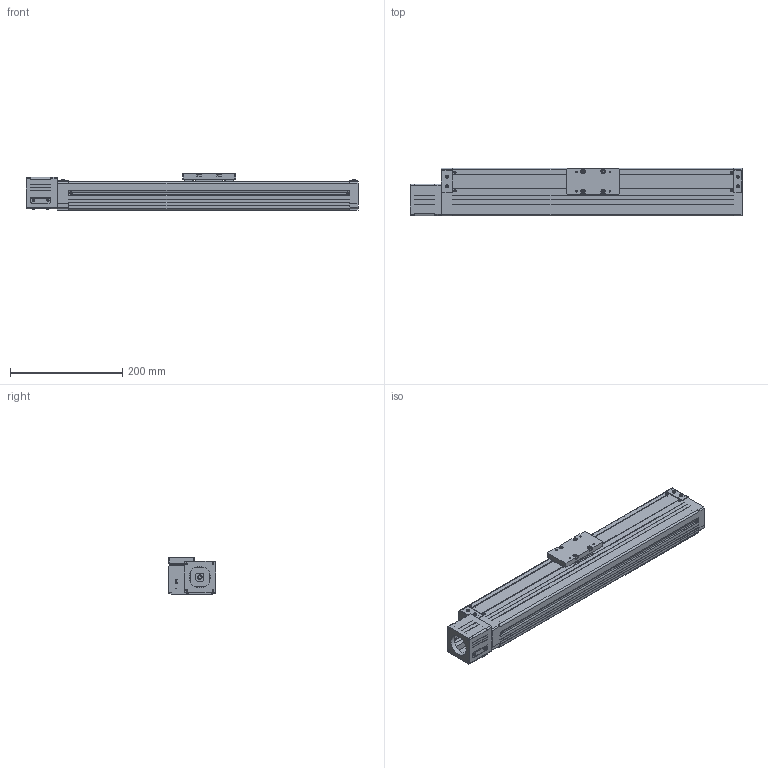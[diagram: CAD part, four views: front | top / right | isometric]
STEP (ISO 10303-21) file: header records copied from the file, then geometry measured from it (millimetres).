
FILE_DESCRIPTION((''),'2;1');
FILE_NAME('D:\製品 (図面)\カタログ用3D\SU部品\SU85×65\ダウンロード用\SU85×65-MB56\SU85×65-400-MB56.stp','2011-07-01T17:22:35',('Tsuchiya'),(''),'Autodesk Inventor 10','Autodesk Inventor 10','');
FILE_SCHEMA(('AUTOMOTIVE_DESIGN { 1 0 10303 214 1 1 1 1 }'));
Length unit declared in the file: millimetre
Products named in the file (3): SU85×65-400-MB56; SU85×65-400-MB561; SU85×65-400-MB562
Assembly tree (2 placements, depth 2):
  SU85×65-400-MB56
    SU85×65-400-MB561
    SU85×65-400-MB562
Bounding box: 591 x 85 x 65 mm (x, y, z)
Volume: 1107119.3 mm3; surface area: 375516.5 mm2
Topology: 8 solids, 8 shells, 847 faces, 2228 edges, 1442 vertices
Faces by surface type: plane 713, cylinder 102, cone 16, torus 12, bspline 4
Full cylindrical faces by diameter (mm): 3.242 x8, 4 x4, 4.134 x12, 4.5 x4, 5.5 x4, 6 x1, 7 x4, 8 x1, 11.5 x1, 12 x1, 13 x1, 38.1 x1, 43 x1
Entity records: 25878 total; most frequent: CARTESIAN_POINT 5195, ORIENTED_EDGE 4248, DIRECTION 4056, EDGE_CURVE 2124, VECTOR 1712, LINE 1712, VERTEX_POINT 1413, AXIS2_PLACEMENT_3D 1172
